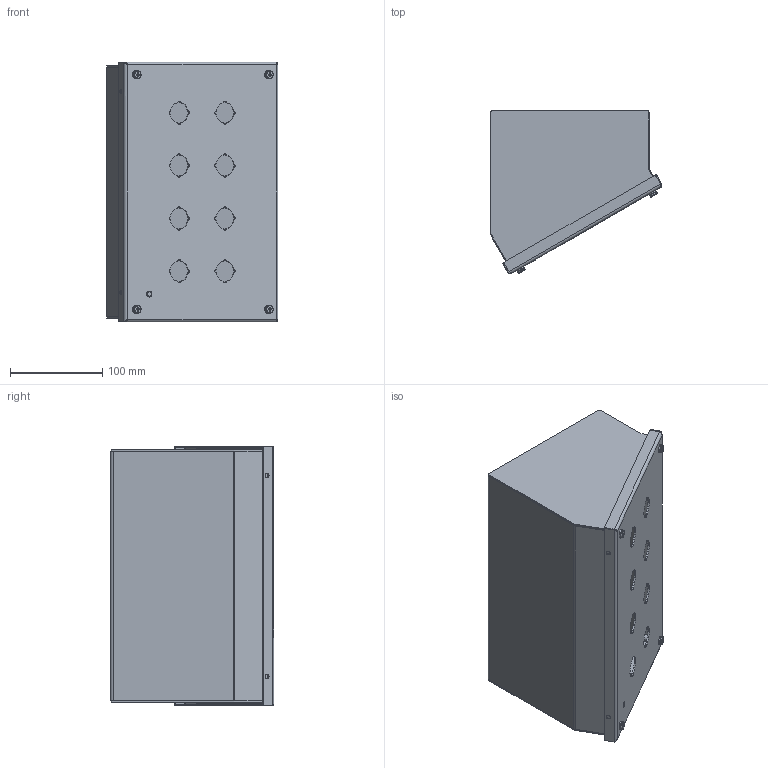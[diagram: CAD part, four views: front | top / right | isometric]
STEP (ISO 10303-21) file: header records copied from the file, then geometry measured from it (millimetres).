
FILE_DESCRIPTION((''),'2;1');
FILE_NAME('MODEL-296_ASM','2021-06-08T10:16:02',('mikek'),('SAGINAW CONTROL & ENGINEERING'),'CREO PARAMETRIC BY PTC INC, 2017260','CREO PARAMETRIC BY PTC INC, 2017260','');
FILE_SCHEMA(('AUTOMOTIVE_DESIGN { 1 0 10303 214 1 1 1 1 }'));
Length unit declared in the file: inch
Products named in the file (14): MODEL-296-BDY; MODEL-296-DR; 100063; 100983; 102534; MODEL-296-GSKT; 100009; CH-ELJ_SUBPANEL; 102479; CH-ELJ_SUBPANEL-SUBASSEMBLY_ASM; 120706; MODEL-296-R-SD; MODEL-296-L-SD; MODEL-296_ASM
Assembly tree (26 placements, depth 3):
  MODEL-296_ASM
    MODEL-296-BDY
    MODEL-296-DR
    100063
    100983  x4
    102534  x4
    MODEL-296-GSKT
    100009  x5
    CH-ELJ_SUBPANEL-SUBASSEMBLY_ASM
      CH-ELJ_SUBPANEL
      102479  x4
    120706
    MODEL-296-R-SD
    MODEL-296-L-SD
Bounding box: 186 x 176.67 x 280.99 mm (x, y, z)
Volume: 421618.7 mm3; surface area: 545842 mm2
Topology: 28 solids, 28 shells, 1141 faces, 2878 edges, 1672 vertices
Faces by surface type: cylinder 436, plane 389, bspline 168, torus 96, cone 44, sphere 8
Entity records: 29212 total; most frequent: CARTESIAN_POINT 4925, DIRECTION 3501, ORIENTED_EDGE 3196, EDGE_CURVE 1598, PRESENTATION_STYLE_ASSIGNMENT 1513, STYLED_ITEM 1513, CURVE_STYLE 1434, AXIS2_PLACEMENT_3D 1369
